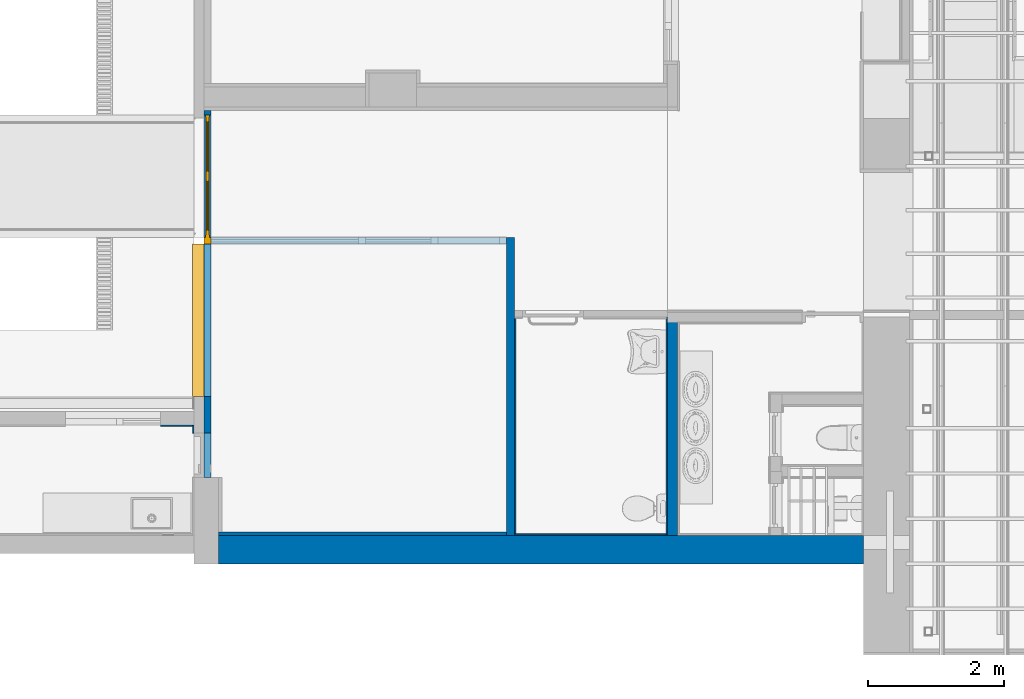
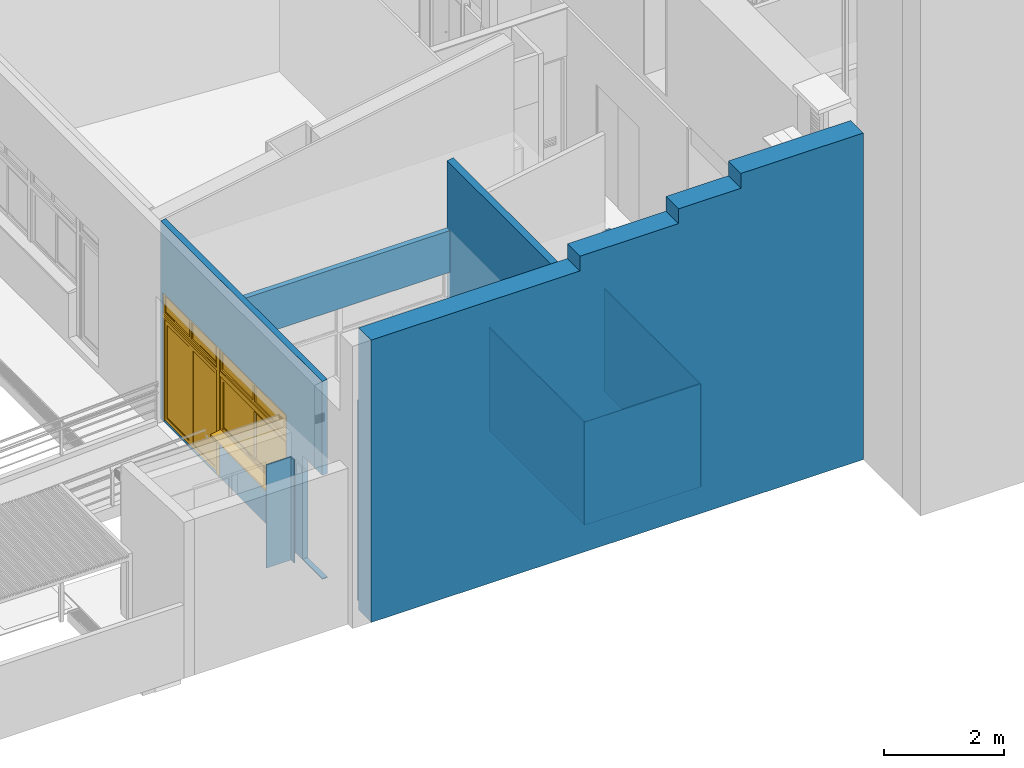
# One storey, part 33 of 75: 11 walls, 1 door, 1 window, 5 openings.
"""IFC2X3 building model written with IfcOpenShell, lengths in metres."""

from ifc_helpers import new_model, entity, si_unit, converted_unit, derived_unit, direction, frame, frame_2d, origin, origin_2d_with_axis, place, context, subcontext, project, spatial, polyline, circle_curve, parameter, trimmed, segment, composite_curve, rectangle, outline, extrude, clip, bounded_halfspace, source, transform, mapped, material, material_list, layer, layer_set, layer_usage, type_object, type_shapes, element, fill, save


model = new_model("IFC2X3")

# Units and contexts
model_context = context("Model", 3, precision=1e-05, world=origin(), true_north=direction((6.12303176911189e-17, 1.0)))
body_context = subcontext(model_context, "Body", "Model", "MODEL_VIEW")
ifc_project = project(units=[si_unit("LENGTHUNIT", "METRE"), si_unit("AREAUNIT", "SQUARE_METRE"), si_unit("VOLUMEUNIT", "CUBIC_METRE"), converted_unit("PLANEANGLEUNIT", "DEGREE", entity("IfcRatioMeasure", 0.0174532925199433), si_unit("PLANEANGLEUNIT", "RADIAN"), dimensions=[0, 0, 0, 0, 0, 0, 0]), si_unit("MASSUNIT", "GRAM", prefix="KILO"), derived_unit("MASSDENSITYUNIT", [(si_unit("MASSUNIT", "GRAM", prefix="KILO"), 1), (si_unit("LENGTHUNIT", "METRE"), -3)]), derived_unit("MOMENTOFINERTIAUNIT", [(si_unit("LENGTHUNIT", "METRE"), 4)]), si_unit("TIMEUNIT", "SECOND"), si_unit("FREQUENCYUNIT", "HERTZ"), si_unit("THERMODYNAMICTEMPERATUREUNIT", "DEGREE_CELSIUS"), derived_unit("THERMALTRANSMITTANCEUNIT", [(si_unit("MASSUNIT", "GRAM", prefix="KILO"), 1), (si_unit("THERMODYNAMICTEMPERATUREUNIT", "KELVIN"), -1), (si_unit("TIMEUNIT", "SECOND"), -3)]), derived_unit("VOLUMETRICFLOWRATEUNIT", [(si_unit("LENGTHUNIT", "METRE"), 3), (si_unit("TIMEUNIT", "SECOND"), -1)]), si_unit("ELECTRICCURRENTUNIT", "AMPERE"), si_unit("ELECTRICVOLTAGEUNIT", "VOLT"), si_unit("POWERUNIT", "WATT"), si_unit("FORCEUNIT", "NEWTON", prefix="KILO"), si_unit("ILLUMINANCEUNIT", "LUX"), si_unit("LUMINOUSFLUXUNIT", "LUMEN"), si_unit("LUMINOUSINTENSITYUNIT", "CANDELA"), derived_unit("USERDEFINED", [(si_unit("MASSUNIT", "GRAM", prefix="KILO"), -1), (si_unit("LENGTHUNIT", "METRE"), -2), (si_unit("TIMEUNIT", "SECOND"), 3), (si_unit("LUMINOUSFLUXUNIT", "LUMEN"), 1)]), derived_unit("LINEARVELOCITYUNIT", [(si_unit("LENGTHUNIT", "METRE"), 1), (si_unit("TIMEUNIT", "SECOND"), -1)]), si_unit("PRESSUREUNIT", "PASCAL"), derived_unit("USERDEFINED", [(si_unit("LENGTHUNIT", "METRE"), -2), (si_unit("MASSUNIT", "GRAM", prefix="KILO"), 1), (si_unit("TIMEUNIT", "SECOND"), -2)]), derived_unit("LINEARFORCEUNIT", [(si_unit("MASSUNIT", "GRAM", prefix="KILO"), 1), (si_unit("LENGTHUNIT", "METRE"), 1), (si_unit("TIMEUNIT", "SECOND"), -2), (si_unit("LENGTHUNIT", "METRE"), -1)]), derived_unit("PLANARFORCEUNIT", [(si_unit("MASSUNIT", "GRAM", prefix="KILO"), 1), (si_unit("LENGTHUNIT", "METRE"), 1), (si_unit("TIMEUNIT", "SECOND"), -2), (si_unit("LENGTHUNIT", "METRE"), -2)])], contexts=[model_context])

# Site, building, storey
site_placement = place(None, origin())
site = spatial("IfcSite", under=ifc_project, at=site_placement, Name="Superficie", CompositionType="ELEMENT")
building_placement = place(site_placement, origin())
building = spatial("IfcBuilding", under=site, at=building_placement, Name="Telegestiones", CompositionType="ELEMENT")
storey_placement = place(building_placement, origin())
storey = spatial("IfcBuildingStorey", under=building, at=storey_placement, Name="Nivel 0_NPT", CompositionType="ELEMENT", Elevation=0.0)

# Wall
ifc_material_1 = material(Name="Muro por defecto")
ifc_layer_1 = layer(ifc_material_1, 0.15)
ifc_layer_set_1 = layer_set([ifc_layer_1], Name="Muro básico:ARQ-MU-IN-15-Gen")
ifc_layer_usage_1 = layer_usage(ifc_layer_set_1, "AXIS2", "POSITIVE", -0.075)
wall_type_1 = type_object("IfcWallType", Name="Muro básico:ARQ-MU-IN-15-Gen", PredefinedType="STANDARD", material=ifc_layer_set_1)
wall_1_placement = place(storey_placement, frame((2.54981262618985, -4.086392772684, 0.0), z_axis=(0.0, 0.0, 1.0), x_axis=(0.0, 1.0, 0.0)))
element("IfcWallStandardCase", 1, at=wall_1_placement, inside=storey, type_object=wall_type_1, material=ifc_layer_usage_1, Name="Muro básico:ARQ-MU-IN-15-Gen", ObjectType="Muro básico:ARQ-MU-IN-15-Gen", context=body_context, shape_type="SweptSolid", body=[
    extrude(rectangle(XDim=3.30492982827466, YDim=0.149999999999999, at=frame_2d((1.65246491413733, 1.2490009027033e-16), x_axis=(-1.0, 0.0))), origin(), (0.0, 0.0, 1.0), 3.21),
])

# Wall, opening
ifc_layer_2 = layer(ifc_material_1, 0.42)
ifc_layer_set_2 = layer_set([ifc_layer_2], Name="Muro básico:ARQ-MU-EX-42-Gen")
ifc_layer_usage_2 = layer_usage(ifc_layer_set_2, "AXIS2", "POSITIVE", -0.21)
wall_type_2 = type_object("IfcWallType", Name="Muro básico:ARQ-MU-EX-42-Gen", PredefinedType="STANDARD", material=ifc_layer_set_2)
wall_2_placement = place(storey_placement, frame((-4.12518737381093, -4.296392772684, -0.2)))
wall_2 = element("IfcWallStandardCase", 2, at=wall_2_placement, inside=storey, type_object=wall_type_2, material=ifc_layer_usage_2, Name="Muro básico:ARQ-MU-EX-42-Gen", ObjectType="Muro básico:ARQ-MU-EX-42-Gen", context=body_context, shape_type="SweptSolid", body=[
    extrude(rectangle(XDim=9.47947715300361, YDim=0.42, at=frame_2d((4.73973857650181, 0.0), x_axis=(-1.0, 0.0))), origin(), (0.0, 0.0, 1.0), 6.65),
])
opening_1_placement = place(wall_2_placement, origin())
element("IfcOpeningElement", 3, at=opening_1_placement, cuts=wall_2, Name="Muro básico:ARQ-MU-EX-42-Gen", ObjectType="Opening", context=body_context, shape_type="SweptSolid", body=[
    extrude(outline(polyline([(-2.8998692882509, -0.450000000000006), (4.39960786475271, -0.450000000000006), (4.39960786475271, 0.450000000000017), (0.200130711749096, 0.450000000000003), (0.200130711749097, 0.150000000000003), (-1.6998692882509, 0.149999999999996), (-1.6998692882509, -0.150000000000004), (-2.8998692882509, -0.150000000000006), (-2.8998692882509, -0.450000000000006)])), frame((4.21960786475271, 0.21, 6.19999999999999), z_axis=(0.0, -1.0, 0.0), x_axis=(-1.0, 0.0, 0.0)), (0.0, 0.0, 1.0), 0.42),
])

# Walls
ifc_material_2 = material(Name="Placa yeso entera")
ifc_layer_3 = layer(ifc_material_2, 0.015)
ifc_layer_4 = layer(ifc_material_2, 0.015)
ifc_material_3 = material(Name="Estructura de Hierro Galvanizado")
ifc_layer_5 = layer(ifc_material_3, 0.07)
ifc_layer_6 = layer(ifc_material_2, 0.02)
ifc_layer_set_3 = layer_set([ifc_layer_3, ifc_layer_4, ifc_layer_5, ifc_layer_6], Name="Muro básico:ARQ-MU-IN-12-Ye-T7")
ifc_layer_usage_3 = layer_usage(ifc_layer_set_3, "AXIS2", "NEGATIVE", 0.06)
wall_type_3 = type_object("IfcWallType", Name="Muro básico:ARQ-MU-IN-12-Ye-T7", PredefinedType="STANDARD", material=ifc_layer_set_3)
wall_3_placement = place(storey_placement, frame((0.16665245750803, -4.086392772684, -0.0199999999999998), z_axis=(0.0, 0.0, 1.0), x_axis=(0.0, 1.0, 0.0)))
element("IfcWallStandardCase", 4, at=wall_3_placement, inside=storey, type_object=wall_type_3, material=ifc_layer_usage_3, Name="Muro básico:ARQ-MU-IN-12-Ye-T7", ObjectType="Muro básico:ARQ-MU-IN-12-Ye-T7", context=body_context, shape_type="Clipping", body=[
    clip(extrude(rectangle(XDim=4.38028078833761, YDim=0.12, at=frame_2d((2.19014039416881, 0.0), x_axis=(-1.0, 0.0))), origin(), (0.0, 0.0, 1.0), 4.85213116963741), bounded_halfspace(frame((0.0, -0.06, 4.85213116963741), z_axis=(0.0, 0.177152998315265, 0.984183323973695), x_axis=(-1.0, 0.0, 0.0)), False, frame((0.0, -0.06, 4.85213116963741)), polyline([(0.0, 0.0), (3.20492982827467, 0.0), (3.30492982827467, 0.0), (4.38028078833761, 0.0), (4.38028078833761, 0.12), (0.0500000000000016, 0.12), (0.0, 0.12), (0.0, 0.0)]))),
])
ifc_layer_7 = layer(ifc_material_2, 0.012)
ifc_layer_8 = layer(ifc_material_3, 0.038)
ifc_layer_set_4 = layer_set([ifc_layer_7, ifc_layer_8], Name="Muro básico:ARQ-RE-IN-5-Ye-M2")
ifc_layer_usage_4 = layer_usage(ifc_layer_set_4, "AXIS2", "POSITIVE", -0.025)
wall_type_4 = type_object("IfcWallType", Name="Muro básico:ARQ-RE-IN-5-Ye-M2", PredefinedType="STANDARD", material=ifc_layer_set_4)
wall_4_placement = place(storey_placement, frame((0.106652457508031, -4.061392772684, -0.0199999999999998), z_axis=(0.0, 0.0, 1.0), x_axis=(-1.0, 0.0, 0.0)))
element("IfcWallStandardCase", 5, at=wall_4_placement, inside=storey, type_object=wall_type_4, material=ifc_layer_usage_4, Name="Muro básico:ARQ-RE-IN-5-Ye-M2", ObjectType="Muro básico:ARQ-RE-IN-5-Ye-M2", context=body_context, shape_type="Clipping", body=[
    clip(extrude(rectangle(XDim=4.23183983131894, YDim=0.0499999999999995, at=frame_2d((2.11591991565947, 8.67361737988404e-18), x_axis=(-1.0, 0.0))), origin(), (0.0, 0.0, 1.0), 4.83053116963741), bounded_halfspace(frame((0.0, -0.0250000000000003, 4.83053116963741), z_axis=(0.177152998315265, 0.0, 0.984183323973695), x_axis=(0.0, 1.0, 0.0)), False, frame((0.0, -0.0250000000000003, 4.83053116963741)), polyline([(0.0, 0.0), (4.18183983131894, 0.0), (4.23183983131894, 0.0), (4.23183983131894, 0.05), (0.0, 0.05), (0.0, 0.0)]))),
])

# Wall, openings, door, window
ifc_layer_9 = layer(ifc_material_2, 0.015)
ifc_layer_10 = layer(ifc_material_2, 0.015)
ifc_layer_11 = layer(ifc_material_3, 0.07)
ifc_layer_set_5 = layer_set([ifc_layer_9, ifc_layer_10, ifc_layer_11], Name="Muro básico:ARQ-RE-IN-10-Ye-M6")
ifc_layer_usage_5 = layer_usage(ifc_layer_set_5, "AXIS2", "POSITIVE", -0.05)
wall_type_5 = type_object("IfcWallType", Name="Muro básico:ARQ-RE-IN-10-Ye-M6", PredefinedType="STANDARD", material=ifc_layer_set_5)
wall_5_placement = place(storey_placement, frame((-4.28518737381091, -3.23639277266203, -0.0199999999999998), z_axis=(0.0, 0.0, 1.0), x_axis=(0.0, 1.0, 0.0)))
wall_5 = element("IfcWallStandardCase", 6, at=wall_5_placement, inside=storey, type_object=wall_type_5, material=ifc_layer_usage_5, Name="Muro básico:ARQ-RE-IN-10-Ye-M6", ObjectType="Muro básico:ARQ-RE-IN-10-Ye-M6", context=body_context, shape_type="Clipping", body=[
    clip(extrude(rectangle(XDim=5.3909772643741, YDim=0.1, at=frame_2d((2.69548863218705, 1.38777878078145e-17), x_axis=(-1.0, 0.0))), origin(), (0.0, 0.0, 1.0), 4.049), bounded_halfspace(frame((0.0, -0.05, 4.049), z_axis=(0.0, 0.177152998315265, 0.984183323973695), x_axis=(-1.0, 0.0, 0.0)), False, frame((0.0, -0.05, 4.049)), polyline([(0.0, 0.0), (5.3909772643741, 0.0), (5.3909772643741, 0.1), (0.0, 0.1), (0.0, 0.0)]))),
])
opening_2_placement = place(wall_5_placement, origin())
element("IfcOpeningElement", 7, at=opening_2_placement, cuts=wall_5, Name="Muro básico:ARQ-RE-IN-10-Ye-M6", ObjectType="Opening", context=body_context, shape_type="SweptSolid", body=[
    extrude(rectangle(XDim=2.09999999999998, YDim=0.65, at=frame_2d((0.0, -2.77555756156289e-16), x_axis=(1.0, 0.0))), frame((0.324999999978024, -1.32399999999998, 1.06999999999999), z_axis=(0.0, 1.0, 0.0), x_axis=(0.0, 0.0, 1.0)), (0.0, 0.0, 1.0), 3.048),
])
opening_3_placement = place(wall_5_placement, frame((1.19028032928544, -0.0500000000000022, 0.899999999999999)))
opening_3 = element("IfcOpeningElement", 8, at=opening_3_placement, cuts=wall_5, Name="ARQ-VE-EX-234x165-Al-A4:ARQ-VE-EX-224x165-Al-A4:1", ObjectType="Opening", context=body_context, shape_type="SweptSolid", body=[
    extrude(rectangle(XDim=1.72, YDim=2.24, at=frame_2d((0.86, 1.12), x_axis=(1.0, 0.0))), frame((0.0, 0.0, 0.0), z_axis=(0.0, 1.0, 0.0), x_axis=(0.0, 0.0, 1.0)), (0.0, 0.0, 1.0), 0.1),
])
opening_4_placement = place(wall_5_placement, frame((3.43028065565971, -0.050000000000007, 0.0199999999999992)))
opening_4 = element("IfcOpeningElement", 9, at=opening_4_placement, cuts=wall_5, Name="ARQ-PU-EX-181x260-Alu-A3:ARQ-PU-EX-181x260-Alu-A3:1", ObjectType="Opening", context=body_context, shape_type="SweptSolid", body=[
    extrude(rectangle(XDim=2.59999999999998, YDim=1.9, at=frame_2d((1.29999999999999, 0.95), x_axis=(1.0, 0.0))), frame((0.0, 0.0, 0.0), z_axis=(0.0, 1.0, 0.0), x_axis=(0.0, 0.0, 1.0)), (0.0, 0.0, 1.0), 0.1),
])
ifc_material_4 = material(Name="Aluminio")
ifc_material_5 = material(Name="Vidrio")
ifc_material_6 = material(Name="<Unnamed>")
ifc_material_list_1 = material_list([ifc_material_4, ifc_material_5, ifc_material_5, ifc_material_5, ifc_material_5, ifc_material_4, ifc_material_4, ifc_material_4, ifc_material_4, ifc_material_4, ifc_material_4, ifc_material_4, ifc_material_6])
ifc_material_list_2 = material_list([ifc_material_4, ifc_material_5, ifc_material_5, ifc_material_5, ifc_material_5, ifc_material_4, ifc_material_4, ifc_material_4, ifc_material_4, ifc_material_4, ifc_material_4, ifc_material_4, ifc_material_6])
door_style = type_object("IfcDoorStyle", Name="ARQ-PU-EX-181x260-Alu-A3:ARQ-PU-EX-181x260-Alu-A3", ConstructionType="NOTDEFINED", OperationType="NOTDEFINED", ParameterTakesPrecedence=False, Sizeable=False, material=ifc_material_list_2)
shared_shape_1 = source(origin(), body_context, "Body", "SweptSolid", [
    extrude(rectangle(XDim=0.1, YDim=1.8, at=origin_2d_with_axis()), frame((1.0, 0.05, 2.10000000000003), z_axis=(0.0, 0.0, 1.0), x_axis=(0.0, 1.0, 0.0)), (0.0, 0.0, 1.0), 0.05),
    extrude(rectangle(XDim=0.01, YDim=0.805, at=origin_2d_with_axis()), frame((1.43749999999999, 0.05, 2.21000000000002), z_axis=(0.0, 0.0, 1.0), x_axis=(0.0, 1.0, 0.0)), (0.0, 0.0, 1.0), 0.329999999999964),
    extrude(rectangle(XDim=0.01, YDim=0.805, at=origin_2d_with_axis()), frame((0.562499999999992, 0.05, 2.21000000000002), z_axis=(0.0, 0.0, 1.0), x_axis=(0.0, 1.0, 0.0)), (0.0, 0.0, 1.0), 0.329999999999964),
    extrude(rectangle(XDim=0.01, YDim=0.71, at=frame_2d((0.0, 5.55111512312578e-17), x_axis=(1.0, 0.0))), frame((1.43499999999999, 0.05, 0.0800000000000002), z_axis=(0.0, 0.0, 1.0), x_axis=(0.0, 1.0, 0.0)), (0.0, 0.0, 1.0), 1.89000000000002),
    extrude(rectangle(XDim=0.01, YDim=0.709999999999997, at=origin_2d_with_axis()), frame((0.564999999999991, 0.05, 0.0800000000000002), z_axis=(0.0, 0.0, 1.0), x_axis=(0.0, 1.0, 0.0)), (0.0, 0.0, 1.0), 1.89000000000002),
    extrude(outline(polyline([(-0.412499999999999, -0.174999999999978), (0.412499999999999, -0.174999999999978), (0.412499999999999, 0.174999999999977), (-0.412499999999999, 0.174999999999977), (-0.412499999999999, -0.174999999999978)]), holes=[polyline([(-0.402499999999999, -0.164999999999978), (-0.402499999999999, 0.164999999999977), (0.402499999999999, 0.164999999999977), (0.402499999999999, -0.164999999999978), (-0.402499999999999, -0.164999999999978)])]), frame((1.4375, 0.04, 2.37500000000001), z_axis=(0.0, 1.0, 0.0), x_axis=(1.0, 0.0, 0.0)), (0.0, 0.0, 1.0), 0.02),
    extrude(outline(polyline([(-0.365, -0.955000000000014), (0.365, -0.955000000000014), (0.365, 0.955000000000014), (-0.365, 0.955000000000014), (-0.365, -0.955000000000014)]), holes=[polyline([(-0.355, -0.945000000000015), (-0.355, 0.945000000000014), (0.355, 0.945000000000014), (0.355, -0.945000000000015), (-0.355, -0.945000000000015)])]), frame((1.435, 0.04, 1.02500000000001), z_axis=(0.0, 1.0, 0.0), x_axis=(1.0, 0.0, 0.0)), (0.0, 0.0, 1.0), 0.02),
    extrude(outline(polyline([(-0.364999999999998, -0.955000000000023), (0.364999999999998, -0.955000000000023), (0.364999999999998, 0.955000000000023), (-0.364999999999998, 0.955000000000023), (-0.364999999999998, -0.955000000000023)]), holes=[polyline([(-0.354999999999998, -0.945000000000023), (-0.354999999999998, 0.945000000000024), (0.354999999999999, 0.945000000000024), (0.354999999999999, -0.945000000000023), (-0.354999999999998, -0.945000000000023)])]), frame((0.564999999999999, 0.04, 1.02500000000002), z_axis=(0.0, 1.0, 0.0), x_axis=(-1.0, 0.0, 0.0)), (0.0, 0.0, 1.0), 0.02),
    extrude(outline(polyline([(-0.4125, -0.174999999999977), (0.4125, -0.174999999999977), (0.4125, 0.174999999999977), (-0.4125, 0.174999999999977), (-0.4125, -0.174999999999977)]), holes=[polyline([(-0.4025, -0.164999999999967), (-0.4025, 0.164999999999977), (0.4025, 0.164999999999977), (0.4025, -0.164999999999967), (-0.4025, -0.164999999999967)])]), frame((0.562500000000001, 0.04, 2.37500000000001), z_axis=(0.0, 1.0, 0.0), x_axis=(-1.0, 0.0, 0.0)), (0.0, 0.0, 1.0), 0.02),
    extrude(outline(polyline([(-0.87, -1.02500000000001), (0.87, -1.02500000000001), (0.87, 1.02500000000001), (-0.87, 1.02500000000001), (-0.87, -1.02500000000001)]), holes=[polyline([(0.0700000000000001, -0.955000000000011), (0.0700000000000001, 0.955000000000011), (0.8, 0.955000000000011), (0.8, -0.955000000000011), (0.0700000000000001, -0.955000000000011)]), polyline([(-0.070000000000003, 0.955000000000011), (-0.070000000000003, -0.955000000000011), (-0.8, -0.955000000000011), (-0.8, 0.955000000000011), (-0.070000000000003, 0.955000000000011)])]), frame((1.0, 0.03, 1.02500000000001), z_axis=(0.0, 1.0, 0.0), x_axis=(1.0, 0.0, 0.0)), (0.0, 0.0, 1.0), 0.04),
    extrude(outline(polyline([(-0.9, -1.0625), (0.9, -1.0625), (0.9, 1.03750000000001), (0.87, 1.03750000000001), (0.87, -1.01250000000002), (-0.87, -1.01250000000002), (-0.87, 1.03750000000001), (-0.9, 1.03750000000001), (-0.9, -1.0625)])), frame((1.0, 0.02, 1.03750000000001), z_axis=(0.0, 1.0, 0.0), x_axis=(1.0, 0.0, 0.0)), (0.0, 0.0, 1.0), 0.06),
    extrude(outline(polyline([(-0.9, -0.224999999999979), (0.9, -0.224999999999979), (0.9, 0.224999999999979), (-0.9, 0.224999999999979), (-0.9, -0.224999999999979)]), holes=[polyline([(-0.0249999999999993, 0.174999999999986), (-0.0249999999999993, -0.174999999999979), (-0.849999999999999, -0.174999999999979), (-0.849999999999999, 0.174999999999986), (-0.0249999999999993, 0.174999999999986)]), polyline([(0.0250000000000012, -0.174999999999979), (0.0250000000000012, 0.174999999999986), (0.85, 0.174999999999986), (0.85, -0.174999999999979), (0.0250000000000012, -0.174999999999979)])]), frame((1.0, 0.02, 2.375), z_axis=(0.0, 1.0, 0.0), x_axis=(1.0, 0.0, 0.0)), (0.0, 0.0, 1.0), 0.06),
    extrude(rectangle(XDim=0.1, YDim=0.1, at=origin_2d_with_axis()), frame((0.0500000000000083, 0.05, 0.0), z_axis=(0.0, 0.0, 1.0), x_axis=(0.0, 1.0, 0.0)), (0.0, 0.0, 1.0), 2.59999999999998),
])
type_shapes(door_style, [shared_shape_1])
door_placement = place(opening_4_placement, origin())
door = element("IfcDoor", 10, at=door_placement, inside=storey, type_object=door_style, material=ifc_material_list_1, Name="ARQ-PU-EX-181x260-Alu-A3:ARQ-PU-EX-181x260-Alu-A3", ObjectType="ARQ-PU-EX-181x260-Alu-A3:ARQ-PU-EX-181x260-Alu-A3", OverallHeight=2.59999999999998, OverallWidth=1.9, context=body_context, shape_type="MappedRepresentation", body=[
    mapped(shared_shape_1, transform((0.0, 0.0, 0.0), scale=1.0)),
])
fill(opening_4, door)
ifc_material_7 = material(Name="Hormigón, prefabricado")
ifc_material_list_3 = material_list([ifc_material_7, ifc_material_5, ifc_material_5, ifc_material_4, ifc_material_4, ifc_material_4, ifc_material_4, ifc_material_4, ifc_material_4, ifc_material_5, ifc_material_5, ifc_material_4, ifc_material_4, ifc_material_4, ifc_material_4])
ifc_material_list_4 = material_list([ifc_material_7, ifc_material_5, ifc_material_5, ifc_material_4, ifc_material_4, ifc_material_4, ifc_material_4, ifc_material_4, ifc_material_4, ifc_material_5, ifc_material_5, ifc_material_4, ifc_material_4, ifc_material_4, ifc_material_4])
window_style = type_object("IfcWindowStyle", Name="ARQ-VE-EX-234x165-Al-A4:ARQ-VE-EX-224x165-Al-A4", ConstructionType="NOTDEFINED", OperationType="NOTDEFINED", ParameterTakesPrecedence=False, Sizeable=False, material=ifc_material_list_4)
shared_shape_2 = source(origin(), body_context, "Body", "SweptSolid", [
    extrude(outline(composite_curve([segment(polyline([(-0.0301224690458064, -0.02514285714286), (0.128048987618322, -0.02514285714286)]), True, "CONTINUOUS"), segment(polyline([(0.128048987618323, -0.02514285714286), (0.128048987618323, 0.0448571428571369)]), True, "CONTINUOUS"), segment(polyline([(0.128048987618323, 0.0448571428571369), (0.0980489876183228, 0.0448571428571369)]), True, "CONTINUOUS"), segment(polyline([(0.0980489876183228, 0.0448571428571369), (-0.141951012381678, 0.0108571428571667)]), True, "CONTINUOUS"), segment(polyline([(-0.141951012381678, 0.0108571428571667), (-0.141951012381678, -0.02514285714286)]), True, "CONTINUOUS"), segment(polyline([(-0.141951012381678, -0.02514285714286), (-0.0401224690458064, -0.02514285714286)]), True, "CONTINUOUS"), segment(trimmed(circle_curve(frame_2d((-0.0351224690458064, -0.02514285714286), x_axis=(1.0, 0.0)), 0.00499999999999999), [parameter(0.0)], [parameter(180.0)], True, "PARAMETER"), False, "CONTINUOUS")], self_intersect=False)), frame((0.0, 0.128048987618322, 0.0251428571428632), z_axis=(-1.0, 0.0, 0.0), x_axis=(0.0, -1.0, 0.0)), (0.0, 0.0, -1.0), 2.24),
    extrude(rectangle(XDim=0.01, YDim=0.990000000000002, at=origin_2d_with_axis()), frame((1.655, 0.06, 0.159999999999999), z_axis=(0.0, 0.0, 1.0), x_axis=(0.0, 1.0, 0.0)), (0.0, 0.0, 1.0), 0.920000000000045),
    extrude(rectangle(XDim=0.01, YDim=1.02, at=origin_2d_with_axis()), frame((0.6, 0.035, 0.16), z_axis=(0.0, 0.0, 1.0), x_axis=(0.0, 1.0, 0.0)), (0.0, 0.0, 1.0), 0.920000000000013),
    extrude(outline(polyline([(-0.470000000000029, -0.505000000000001), (0.470000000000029, -0.505000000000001), (0.470000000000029, 0.505000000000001), (-0.470000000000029, 0.505000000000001), (-0.470000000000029, -0.505000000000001)]), holes=[polyline([(0.460000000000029, -0.495000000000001), (-0.460000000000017, -0.495000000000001), (-0.460000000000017, 0.495000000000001), (0.460000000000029, 0.495000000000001), (0.460000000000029, -0.495000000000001)])]), frame((1.655, 0.05, 0.620000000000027), z_axis=(0.0, 1.0, 0.0), x_axis=(0.0, 0.0, -1.0)), (0.0, 0.0, 1.0), 0.02),
    extrude(outline(polyline([(-0.52, -0.470000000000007), (0.52, -0.470000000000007), (0.52, 0.470000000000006), (-0.52, 0.470000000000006), (-0.52, -0.470000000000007)]), holes=[polyline([(0.51, 0.460000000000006), (0.51, -0.460000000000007), (-0.51, -0.460000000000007), (-0.51, 0.460000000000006), (0.51, 0.460000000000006)])]), frame((0.6, 0.025, 0.620000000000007), z_axis=(0.0, 1.0, 0.0), x_axis=(1.0, 0.0, 0.0)), (0.0, 0.0, 1.0), 0.02),
    extrude(outline(polyline([(-0.535000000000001, -0.500000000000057), (0.535000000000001, -0.500000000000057), (0.535000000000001, 0.500000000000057), (-0.535000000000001, 0.500000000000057), (-0.535000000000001, -0.500000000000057)]), holes=[polyline([(-0.505000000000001, -0.470000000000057), (-0.505000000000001, 0.470000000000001), (0.505000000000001, 0.470000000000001), (0.505000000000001, -0.470000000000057), (-0.505000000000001, -0.470000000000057)])]), frame((1.655, 0.05, 0.620000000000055), z_axis=(0.0, 1.0, 0.0), x_axis=(-1.0, 0.0, 0.0)), (0.0, 0.0, 1.0), 0.025),
    extrude(outline(polyline([(-0.575, -0.500000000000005), (0.575, -0.500000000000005), (0.575, 0.500000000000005), (-0.575, 0.500000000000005), (-0.575, -0.500000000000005)]), holes=[polyline([(-0.545, -0.470000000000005), (-0.545, 0.470000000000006), (0.545, 0.470000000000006), (0.545, -0.470000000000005), (-0.545, -0.470000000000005)])]), frame((0.625, 0.025, 0.620000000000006), z_axis=(0.0, 1.0, 0.0), x_axis=(-1.0, 0.0, 0.0)), (0.0, 0.0, 1.0), 0.025),
    extrude(rectangle(XDim=0.1, YDim=2.24, at=origin_2d_with_axis()), frame((1.12, 0.05, 1.17000000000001), z_axis=(0.0, 0.0, 1.0), x_axis=(0.0, 1.0, 0.0)), (0.0, 0.0, 1.0), 0.05),
    extrude(rectangle(XDim=0.1, YDim=2.24, at=origin_2d_with_axis()), frame((1.12, 0.05, 1.22000000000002), z_axis=(0.0, 0.0, 1.0), x_axis=(0.0, 1.0, 0.0)), (0.0, 0.0, 1.0), 0.05),
    extrude(rectangle(XDim=0.01, YDim=1.025, at=origin_2d_with_axis()), frame((0.5725, 0.05, 1.33000000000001), z_axis=(0.0, 0.0, 1.0), x_axis=(0.0, 1.0, 0.0)), (0.0, 0.0, 1.0), 0.329999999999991),
    extrude(rectangle(XDim=0.01, YDim=1.025, at=origin_2d_with_axis()), frame((1.6675, 0.05, 1.33000000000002), z_axis=(0.0, 0.0, 1.0), x_axis=(0.0, 1.0, 0.0)), (0.0, 0.0, 1.0), 0.329999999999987),
    extrude(outline(polyline([(-0.174999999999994, -0.522499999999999), (0.174999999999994, -0.522499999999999), (0.174999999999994, 0.522499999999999), (-0.174999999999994, 0.522499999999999), (-0.174999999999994, -0.522499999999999)]), holes=[polyline([(-0.164999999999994, -0.512499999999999), (-0.164999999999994, 0.512499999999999), (0.164999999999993, 0.512499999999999), (0.164999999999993, -0.512499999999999), (-0.164999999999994, -0.512499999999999)])]), frame((1.6675, 0.045, 1.49500000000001), z_axis=(0.0, 1.0, 0.0), x_axis=(0.0, 0.0, -1.0)), (0.0, 0.0, 1.0), 0.01),
    extrude(outline(polyline([(-0.5225, -0.174999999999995), (0.5225, -0.174999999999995), (0.5225, 0.174999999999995), (-0.5225, 0.174999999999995), (-0.5225, -0.174999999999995)]), holes=[polyline([(-0.5125, 0.164999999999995), (0.5125, 0.164999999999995), (0.5125, -0.164999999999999), (-0.5125, -0.164999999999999), (-0.5125, 0.164999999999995)])]), frame((0.5725, 0.045, 1.49500000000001), z_axis=(0.0, 1.0, 0.0), x_axis=(-1.0, 0.0, 0.0)), (0.0, 0.0, 1.0), 0.01),
    extrude(outline(polyline([(-1.12, -0.224999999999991), (1.12, -0.224999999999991), (1.12, 0.224999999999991), (-1.12, 0.224999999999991), (-1.12, -0.224999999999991)]), holes=[polyline([(-0.0250000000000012, -0.174999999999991), (-1.07, -0.174999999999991), (-1.07, 0.174999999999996), (-0.0250000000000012, 0.174999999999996), (-0.0250000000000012, -0.174999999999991)]), polyline([(0.0249999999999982, 0.174999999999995), (1.07, 0.174999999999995), (1.07, -0.174999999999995), (0.0249999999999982, -0.174999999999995), (0.0249999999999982, 0.174999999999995)])]), frame((1.12, 0.02, 1.49500000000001), z_axis=(0.0, 1.0, 0.0), x_axis=(-1.0, 0.0, 0.0)), (0.0, 0.0, 1.0), 0.06),
    extrude(outline(polyline([(-0.550000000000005, -1.12), (0.550000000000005, -1.12), (0.550000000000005, 1.12), (-0.550000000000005, 1.12), (-0.550000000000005, -1.12)]), holes=[polyline([(0.500000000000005, -1.07), (-0.500000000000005, -1.07), (-0.500000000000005, 1.07), (0.500000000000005, 1.07), (0.500000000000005, -1.07)])]), frame((1.12, 0.02, 0.620000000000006), z_axis=(0.0, 1.0, 0.0), x_axis=(0.0, 0.0, -1.0)), (0.0, 0.0, 1.0), 0.06),
])
type_shapes(window_style, [shared_shape_2])
window_placement = place(opening_3_placement, origin())
window = element("IfcWindow", 11, at=window_placement, inside=storey, type_object=window_style, material=ifc_material_list_3, Name="ARQ-VE-EX-234x165-Al-A4:ARQ-VE-EX-224x165-Al-A4", ObjectType="ARQ-VE-EX-234x165-Al-A4:ARQ-VE-EX-224x165-Al-A4", OverallHeight=1.72, OverallWidth=2.24, context=body_context, shape_type="MappedRepresentation", body=[
    mapped(shared_shape_2, transform((0.0, 0.0, 0.0), scale=1.0)),
])
fill(opening_3, window)

# Wall, opening
ifc_layer_12 = layer(ifc_material_2, 0.012)
ifc_layer_13 = layer(ifc_material_3, 0.073)
ifc_layer_14 = layer(ifc_material_2, 0.015)
ifc_layer_set_6 = layer_set([ifc_layer_12, ifc_layer_13, ifc_layer_14], Name="Muro básico:ARQ-MU-IN-10-Ye-T6")
ifc_layer_usage_6 = layer_usage(ifc_layer_set_6, "AXIS2", "POSITIVE", -0.05)
wall_type_6 = type_object("IfcWallType", Name="Muro básico:ARQ-MU-IN-10-Ye-T6", PredefinedType="STANDARD", material=ifc_layer_set_6)
wall_6_placement = place(storey_placement, frame((0.106652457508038, 0.24388801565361, 2.6), z_axis=(0.0, 0.0, 1.0), x_axis=(-1.0, 0.0, 0.0)))
wall_6 = element("IfcWallStandardCase", 12, at=wall_6_placement, inside=storey, type_object=wall_type_6, material=ifc_layer_usage_6, Name="Muro básico:ARQ-MU-IN-10-Ye-T6", ObjectType="Muro básico:ARQ-MU-IN-10-Ye-T6", context=body_context, shape_type="Clipping", body=[
    clip(extrude(rectangle(XDim=4.34183983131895, YDim=0.1, at=frame_2d((2.17091991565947, -6.93889390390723e-18), x_axis=(-1.0, 0.0))), origin(), (0.0, 0.0, 1.0), 0.85), bounded_halfspace(frame((0.0, -0.05, 0.85), z_axis=(0.0, 0.0, -1.0), x_axis=(0.0, 1.0, 0.0)), True, frame((0.0, -0.05, 0.85)), polyline([(0.0, 0.0), (4.34183983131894, 0.0), (4.34183983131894, 0.0999999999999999), (0.0, 0.1), (0.0, 0.0)]))),
])
opening_5_placement = place(wall_6_placement, origin())
element("IfcOpeningElement", 13, at=opening_5_placement, cuts=wall_6, Name="Muro básico:ARQ-MU-IN-10-Ye-T6", ObjectType="Opening", context=body_context, shape_type="SweptSolid", body=[
    extrude(rectangle(XDim=2.6, YDim=4.34183983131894, at=frame_2d((0.0, 0.0), x_axis=(0.0, 1.0))), frame((2.17091991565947, -0.2024, -1.3), z_axis=(0.0, 1.0, 0.0), x_axis=(-1.0, 0.0, 0.0)), (0.0, 0.0, 1.0), 0.4048),
])

# Walls
ifc_material_8 = material(Name="Hormigón, Moldeado in situ, gris")
ifc_layer_15 = layer(ifc_material_8, 0.01)
ifc_material_9 = material(Name="Ceramica - Ferrum - Blanco")
ifc_layer_16 = layer(ifc_material_9, 0.01)
ifc_layer_set_7 = layer_set([ifc_layer_15, ifc_layer_16], Name="Muro básico:ARQ-RE-IN-2-Cer")
ifc_layer_usage_7 = layer_usage(ifc_layer_set_7, "AXIS2", "NEGATIVE", 0.01)
wall_type_7 = type_object("IfcWallType", Name="Muro básico:ARQ-RE-IN-2-Cer", PredefinedType="STANDARD", material=ifc_layer_set_7)
wall_7_placement = place(storey_placement, frame((2.46481262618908, -0.881462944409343, 0.0), z_axis=(0.0, 0.0, 1.0), x_axis=(0.0, -1.0, 0.0)))
element("IfcWallStandardCase", 14, at=wall_7_placement, inside=storey, type_object=wall_type_7, material=ifc_layer_usage_7, Name="Muro básico:ARQ-RE-IN-2-Cer", ObjectType="Muro básico:ARQ-RE-IN-2-Cer", context=body_context, shape_type="SweptSolid", body=[
    extrude(rectangle(XDim=3.20492982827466, YDim=0.0199999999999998, at=frame_2d((1.60246491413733, -3.46944695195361e-18), x_axis=(-1.0, 0.0))), origin(), (0.0, 0.0, 1.0), 2.1),
])
ifc_layer_usage_8 = layer_usage(ifc_layer_set_7, "AXIS2", "NEGATIVE", 0.01)
wall_8_placement = place(storey_placement, frame((2.45481262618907, -4.076392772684, 0.0), z_axis=(0.0, 0.0, 1.0), x_axis=(-1.0, 0.0, 0.0)))
element("IfcWallStandardCase", 15, at=wall_8_placement, inside=storey, type_object=wall_type_7, material=ifc_layer_usage_8, Name="Muro básico:ARQ-RE-IN-2-Cer", ObjectType="Muro básico:ARQ-RE-IN-2-Cer", context=body_context, shape_type="SweptSolid", body=[
    extrude(rectangle(XDim=2.22816016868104, YDim=0.0199999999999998, at=frame_2d((1.11408008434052, -4.68375338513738e-17), x_axis=(-1.0, 0.0))), origin(), (0.0, 0.0, 1.0), 2.1),
])
ifc_layer_usage_9 = layer_usage(ifc_layer_set_7, "AXIS2", "POSITIVE", -0.01)
wall_9_placement = place(storey_placement, frame((0.236652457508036, -0.895462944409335, 0.0), z_axis=(0.0, 0.0, 1.0), x_axis=(0.0, -1.0, 0.0)))
element("IfcWallStandardCase", 16, at=wall_9_placement, inside=storey, type_object=wall_type_7, material=ifc_layer_usage_9, Name="Muro básico:ARQ-RE-IN-2-Cer", ObjectType="Muro básico:ARQ-RE-IN-2-Cer", context=body_context, shape_type="SweptSolid", body=[
    extrude(rectangle(XDim=3.17092982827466, YDim=0.02, at=frame_2d((1.58546491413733, -1.73472347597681e-18), x_axis=(-1.0, 0.0))), origin(), (0.0, 0.0, 1.0), 2.1),
])
ifc_layer_usage_10 = layer_usage(ifc_layer_set_7, "AXIS2", "POSITIVE", -0.01)
wall_10_placement = place(storey_placement, frame((-4.49518737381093, -2.58639277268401, -0.0200000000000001), z_axis=(0.0, 0.0, 1.0), x_axis=(0.0, 1.0, 0.0)))
element("IfcWallStandardCase", 17, at=wall_10_placement, inside=storey, type_object=wall_type_7, material=ifc_layer_usage_10, Name="Muro básico:ARQ-RE-IN-2-Cer", ObjectType="Muro básico:ARQ-RE-IN-2-Cer", context=body_context, shape_type="SweptSolid", body=[
    extrude(rectangle(XDim=0.120000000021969, YDim=0.0199999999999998, at=frame_2d((0.0600000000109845, 0.0), x_axis=(-1.0, 0.0))), origin(), (0.0, 0.0, 1.0), 2.1),
])
ifc_layer_usage_11 = layer_usage(ifc_layer_set_7, "AXIS2", "POSITIVE", -0.01)
wall_11_placement = place(storey_placement, frame((-4.50518737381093, -2.47639277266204, -0.0200000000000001), z_axis=(0.0, 0.0, 1.0), x_axis=(-1.0, 0.0, 0.0)))
element("IfcWallStandardCase", 18, at=wall_11_placement, inside=storey, type_object=wall_type_7, material=ifc_layer_usage_11, Name="Muro básico:ARQ-RE-IN-2-Cer", ObjectType="Muro básico:ARQ-RE-IN-2-Cer", context=body_context, shape_type="SweptSolid", body=[
    extrude(rectangle(XDim=0.469999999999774, YDim=0.0199999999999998, at=frame_2d((0.234999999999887, -3.29597460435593e-17), x_axis=(-1.0, 0.0))), origin(), (0.0, 0.0, 1.0), 2.1),
])

save(model, "model.ifc")
